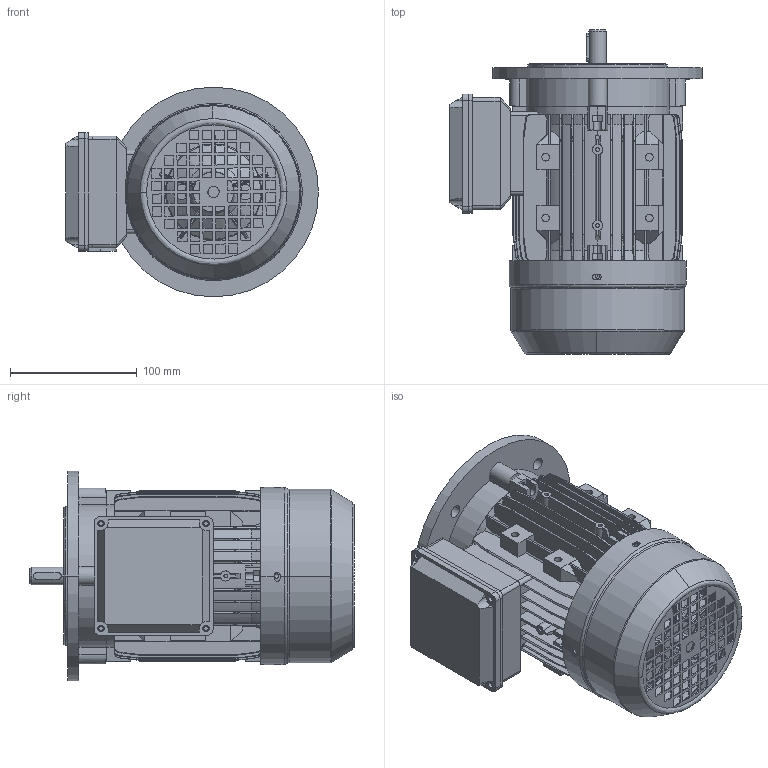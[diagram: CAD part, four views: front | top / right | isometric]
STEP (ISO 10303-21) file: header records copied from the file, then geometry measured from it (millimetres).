
FILE_DESCRIPTION (( 'STEP AP203' ), '1' );
FILE_NAME ('MX71_B5.STEP', '2019-06-14T09:44:46', ( '' ), ( '' ), 'SwSTEP 2.0', 'SolidWorks 2012', '' );
FILE_SCHEMA (( 'CONFIG_CONTROL_DESIGN' ));
Length unit declared in the file: millimetre
Products named in the file (8): Klemmenkastenunterteil_MS71; B5-Flansch_MS71; B-Lagerschild_MS71; Gehäuse_MS71L; MX71_B5; Lüfterhaube_MS71; L黤terfl黦el_MS71; Klemmkastenoberteil_MS71
Assembly tree (7 placements, depth 2):
  MX71_B5
    Gehäuse_MS71L
    B-Lagerschild_MS71
    B5-Flansch_MS71
    Klemmenkastenunterteil_MS71
    Klemmkastenoberteil_MS71
    L黤terfl黦el_MS71
    Lüfterhaube_MS71
Bounding box: 199.91 x 256.71 x 165.81 mm (x, y, z)
Volume: 761410.2 mm3; surface area: 482407.9 mm2
Topology: 7 solids, 7 shells, 1797 faces, 4946 edges, 3222 vertices
Faces by surface type: plane 964, cylinder 531, cone 168, bspline 134
Entity records: 66765 total; most frequent: CARTESIAN_POINT 21325, ORIENTED_EDGE 9888, DIRECTION 8537, EDGE_CURVE 4944, VERTEX_POINT 3222, AXIS2_PLACEMENT_3D 2898, VECTOR 2741, LINE 2741
